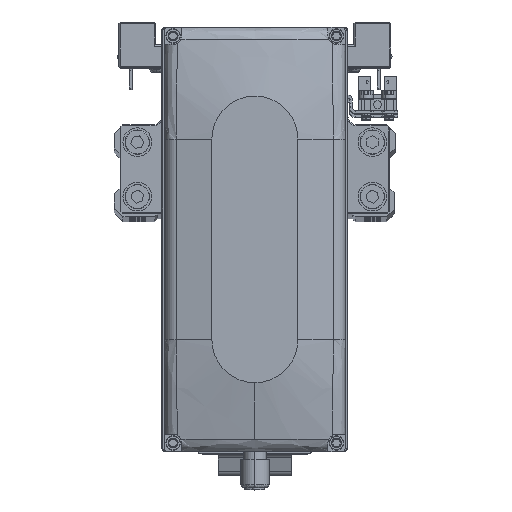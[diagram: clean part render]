
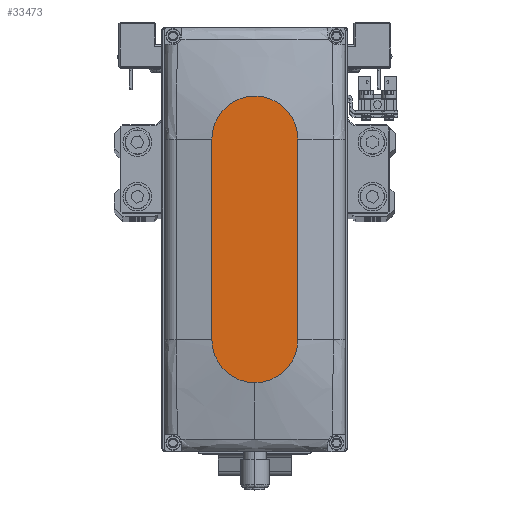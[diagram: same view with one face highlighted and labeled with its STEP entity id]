
A CAD part, top view. The second image highlights one B-rep face of the part: STEP entity #33473.
In plain terms, the highlighted planar face has unit normal (0, 0, 1).
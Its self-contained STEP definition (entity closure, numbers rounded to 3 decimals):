
#509 = CARTESIAN_POINT ( 'NONE',  ( 35., 15., 35. ) ) ;
#822 = EDGE_CURVE ( 'NONE', #2160, #23846, #873, .T. ) ;
#873 = LINE ( 'NONE', #14275, #38276 ) ;
#2160 = VERTEX_POINT ( 'NONE', #509 ) ;
#2638 = DIRECTION ( 'NONE',  ( 1., 0., 0. ) ) ;
#4061 = EDGE_CURVE ( 'NONE', #14644, #5568, #9020, .T. ) ;
#5568 = VERTEX_POINT ( 'NONE', #31656 ) ;
#9020 = CIRCLE ( 'NONE', #33583, 15. ) ;
#9434 = DIRECTION ( 'NONE',  ( 0., 0., 1. ) ) ;
#9515 = DIRECTION ( 'NONE',  ( 0., 0., 1. ) ) ;
#10273 = EDGE_CURVE ( 'NONE', #23846, #25775, #38650, .T. ) ;
#10817 = AXIS2_PLACEMENT_3D ( 'NONE', #39600, #9515, #22907 ) ;
#10949 = CARTESIAN_POINT ( 'NONE',  ( -35., -15., 35. ) ) ;
#12583 = ORIENTED_EDGE ( 'NONE', *, *, #15249, .T. ) ;
#12784 = DIRECTION ( 'NONE',  ( 1., 0., 0. ) ) ;
#12790 = FACE_OUTER_BOUND ( 'NONE', #21571, .T. ) ;
#14275 = CARTESIAN_POINT ( 'NONE',  ( -35., 15., 35. ) ) ;
#14644 = VERTEX_POINT ( 'NONE', #30363 ) ;
#15249 = EDGE_CURVE ( 'NONE', #25775, #14644, #41038, .T. ) ;
#18312 = ORIENTED_EDGE ( 'NONE', *, *, #10273, .T. ) ;
#18348 = AXIS2_PLACEMENT_3D ( 'NONE', #29489, #42872, #12784 ) ;
#19348 = CARTESIAN_POINT ( 'NONE',  ( -35., 0., 35. ) ) ;
#21571 = EDGE_LOOP ( 'NONE', ( #40082, #18312, #12583, #34878, #33184 ) ) ;
#22836 = DIRECTION ( 'NONE',  ( 1., 0., 0. ) ) ;
#22907 = DIRECTION ( 'NONE',  ( 1., 0., 0. ) ) ;
#23846 = VERTEX_POINT ( 'NONE', #23908 ) ;
#23908 = CARTESIAN_POINT ( 'NONE',  ( -35., 15., 35. ) ) ;
#24355 = DIRECTION ( 'NONE',  ( 1., 0., 0. ) ) ;
#25347 = AXIS2_PLACEMENT_3D ( 'NONE', #19348, #32771, #2638 ) ;
#25775 = VERTEX_POINT ( 'NONE', #27820 ) ;
#26214 = PLANE ( 'NONE',  #10817 ) ;
#27693 = DIRECTION ( 'NONE',  ( -1., 0., 0. ) ) ;
#27820 = CARTESIAN_POINT ( 'NONE',  ( -35., -15., 35. ) ) ;
#29489 = CARTESIAN_POINT ( 'NONE',  ( 35., 0., 35. ) ) ;
#30363 = CARTESIAN_POINT ( 'NONE',  ( 35., -15., 35. ) ) ;
#31245 = VECTOR ( 'NONE', #24355, 1000. ) ;
#31656 = CARTESIAN_POINT ( 'NONE',  ( 50., 0., 35. ) ) ;
#32771 = DIRECTION ( 'NONE',  ( 0., 0., 1. ) ) ;
#33184 = ORIENTED_EDGE ( 'NONE', *, *, #40352, .T. ) ;
#33473 = ADVANCED_FACE ( 'NONE', ( #12790 ), #26214, .T. ) ;
#33583 = AXIS2_PLACEMENT_3D ( 'NONE', #39516, #9434, #22836 ) ;
#34878 = ORIENTED_EDGE ( 'NONE', *, *, #4061, .T. ) ;
#37302 = CIRCLE ( 'NONE', #18348, 15. ) ;
#38276 = VECTOR ( 'NONE', #27693, 1000. ) ;
#38650 = CIRCLE ( 'NONE', #25347, 15. ) ;
#39516 = CARTESIAN_POINT ( 'NONE',  ( 35., 0., 35. ) ) ;
#39600 = CARTESIAN_POINT ( 'NONE',  ( 0., 0., 35. ) ) ;
#40082 = ORIENTED_EDGE ( 'NONE', *, *, #822, .T. ) ;
#40352 = EDGE_CURVE ( 'NONE', #5568, #2160, #37302, .T. ) ;
#41038 = LINE ( 'NONE', #10949, #31245 ) ;
#42872 = DIRECTION ( 'NONE',  ( 0., 0., 1. ) ) ;
